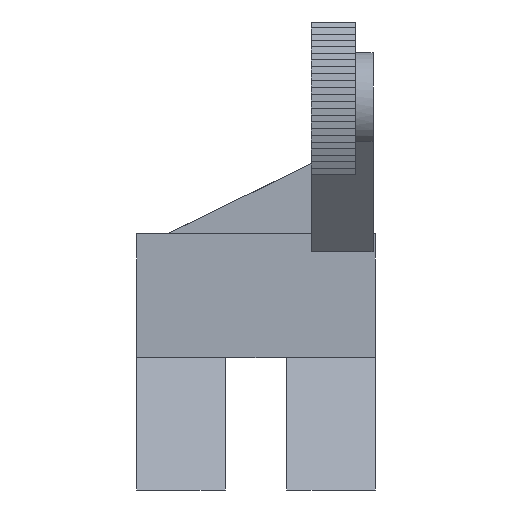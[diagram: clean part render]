
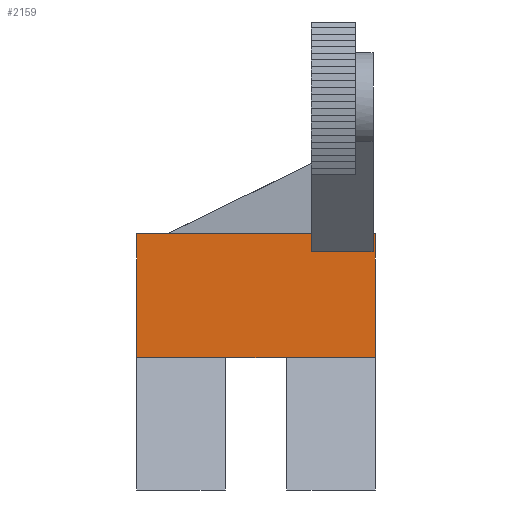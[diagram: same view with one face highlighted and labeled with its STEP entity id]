
A CAD part, front view. The second image highlights one B-rep face of the part: STEP entity #2159.
In plain terms, the highlighted planar face has unit normal (0, -1, 0).
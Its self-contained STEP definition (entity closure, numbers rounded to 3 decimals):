
#45 = PLANE('',#46);
#46 = AXIS2_PLACEMENT_3D('',#47,#48,#49);
#47 = CARTESIAN_POINT('',(20.5,0.,0.));
#48 = DIRECTION('',(1.,-0.,-0.));
#49 = DIRECTION('',(0.,0.,-1.));
#102 = PLANE('',#103);
#103 = AXIS2_PLACEMENT_3D('',#104,#105,#106);
#104 = CARTESIAN_POINT('',(6.5,0.,0.));
#105 = DIRECTION('',(1.,-0.,-0.));
#106 = DIRECTION('',(0.,0.,-1.));
#245 = PLANE('',#246);
#246 = AXIS2_PLACEMENT_3D('',#247,#248,#249);
#247 = CARTESIAN_POINT('',(6.5,-9.,-6.));
#248 = DIRECTION('',(-0.,-0.746,-0.666));
#249 = DIRECTION('',(-0.,-0.666,0.746));
#341 = VERTEX_POINT('',#342);
#342 = CARTESIAN_POINT('',(20.5,16.,-30.));
#356 = PLANE('',#357);
#357 = AXIS2_PLACEMENT_3D('',#358,#359,#360);
#358 = CARTESIAN_POINT('',(-33.,49.,-30.));
#359 = DIRECTION('',(0.,0.,1.));
#360 = DIRECTION('',(-1.,0.,0.));
#368 = EDGE_CURVE('',#369,#341,#371,.T.);
#369 = VERTEX_POINT('',#370);
#370 = CARTESIAN_POINT('',(20.5,16.,-34.));
#371 = SURFACE_CURVE('',#372,(#376,#383),.PCURVE_S1.);
#372 = LINE('',#373,#374);
#373 = CARTESIAN_POINT('',(20.5,16.,-29.));
#374 = VECTOR('',#375,1.);
#375 = DIRECTION('',(-0.,-0.,1.));
#376 = PCURVE('',#45,#377);
#377 = DEFINITIONAL_REPRESENTATION('',(#378),#382);
#378 = LINE('',#379,#380);
#379 = CARTESIAN_POINT('',(29.,16.));
#380 = VECTOR('',#381,1.);
#381 = DIRECTION('',(-1.,0.));
#382 = ( GEOMETRIC_REPRESENTATION_CONTEXT(2) 
PARAMETRIC_REPRESENTATION_CONTEXT() REPRESENTATION_CONTEXT('2D SPACE',''
  ) );
#383 = PCURVE('',#384,#389);
#384 = PLANE('',#385);
#385 = AXIS2_PLACEMENT_3D('',#386,#387,#388);
#386 = CARTESIAN_POINT('',(-33.,16.,-58.));
#387 = DIRECTION('',(0.,-1.,0.));
#388 = DIRECTION('',(0.,0.,-1.));
#389 = DEFINITIONAL_REPRESENTATION('',(#390),#394);
#390 = LINE('',#391,#392);
#391 = CARTESIAN_POINT('',(-29.,53.5));
#392 = VECTOR('',#393,1.);
#393 = DIRECTION('',(-1.,0.));
#394 = ( GEOMETRIC_REPRESENTATION_CONTEXT(2) 
PARAMETRIC_REPRESENTATION_CONTEXT() REPRESENTATION_CONTEXT('2D SPACE',''
  ) );
#661 = VERTEX_POINT('',#662);
#662 = CARTESIAN_POINT('',(6.5,16.,-30.));
#676 = PLANE('',#677);
#677 = AXIS2_PLACEMENT_3D('',#678,#679,#680);
#678 = CARTESIAN_POINT('',(-33.,49.,-30.));
#679 = DIRECTION('',(0.,0.,1.));
#680 = DIRECTION('',(-1.,0.,0.));
#688 = EDGE_CURVE('',#689,#661,#691,.T.);
#689 = VERTEX_POINT('',#690);
#690 = CARTESIAN_POINT('',(6.5,16.,-34.));
#691 = SURFACE_CURVE('',#692,(#696,#703),.PCURVE_S1.);
#692 = LINE('',#693,#694);
#693 = CARTESIAN_POINT('',(6.5,16.,-29.));
#694 = VECTOR('',#695,1.);
#695 = DIRECTION('',(-0.,-0.,1.));
#696 = PCURVE('',#102,#697);
#697 = DEFINITIONAL_REPRESENTATION('',(#698),#702);
#698 = LINE('',#699,#700);
#699 = CARTESIAN_POINT('',(29.,16.));
#700 = VECTOR('',#701,1.);
#701 = DIRECTION('',(-1.,0.));
#702 = ( GEOMETRIC_REPRESENTATION_CONTEXT(2) 
PARAMETRIC_REPRESENTATION_CONTEXT() REPRESENTATION_CONTEXT('2D SPACE',''
  ) );
#703 = PCURVE('',#384,#704);
#704 = DEFINITIONAL_REPRESENTATION('',(#705),#709);
#705 = LINE('',#706,#707);
#706 = CARTESIAN_POINT('',(-29.,39.5));
#707 = VECTOR('',#708,1.);
#708 = DIRECTION('',(-1.,0.));
#709 = ( GEOMETRIC_REPRESENTATION_CONTEXT(2) 
PARAMETRIC_REPRESENTATION_CONTEXT() REPRESENTATION_CONTEXT('2D SPACE',''
  ) );
#2005 = EDGE_CURVE('',#689,#369,#2006,.T.);
#2006 = SURFACE_CURVE('',#2007,(#2011,#2018),.PCURVE_S1.);
#2007 = LINE('',#2008,#2009);
#2008 = CARTESIAN_POINT('',(6.5,16.,-34.));
#2009 = VECTOR('',#2010,1.);
#2010 = DIRECTION('',(1.,-0.,-0.));
#2011 = PCURVE('',#245,#2012);
#2012 = DEFINITIONAL_REPRESENTATION('',(#2013),#2017);
#2013 = LINE('',#2014,#2015);
#2014 = CARTESIAN_POINT('',(-37.537,0.));
#2015 = VECTOR('',#2016,1.);
#2016 = DIRECTION('',(-0.,-1.));
#2017 = ( GEOMETRIC_REPRESENTATION_CONTEXT(2) 
PARAMETRIC_REPRESENTATION_CONTEXT() REPRESENTATION_CONTEXT('2D SPACE',''
  ) );
#2018 = PCURVE('',#384,#2019);
#2019 = DEFINITIONAL_REPRESENTATION('',(#2020),#2024);
#2020 = LINE('',#2021,#2022);
#2021 = CARTESIAN_POINT('',(-24.,39.5));
#2022 = VECTOR('',#2023,1.);
#2023 = DIRECTION('',(-0.,1.));
#2024 = ( GEOMETRIC_REPRESENTATION_CONTEXT(2) 
PARAMETRIC_REPRESENTATION_CONTEXT() REPRESENTATION_CONTEXT('2D SPACE',''
  ) );
#2159 = ADVANCED_FACE('',(#2160),#384,.T.);
#2160 = FACE_BOUND('',#2161,.F.);
#2161 = EDGE_LOOP('',(#2162,#2192,#2220,#2248,#2269,#2270,#2271,#2272));
#2162 = ORIENTED_EDGE('',*,*,#2163,.F.);
#2163 = EDGE_CURVE('',#2164,#2166,#2168,.T.);
#2164 = VERTEX_POINT('',#2165);
#2165 = CARTESIAN_POINT('',(21.,16.,-58.));
#2166 = VERTEX_POINT('',#2167);
#2167 = CARTESIAN_POINT('',(21.,16.,-30.));
#2168 = SURFACE_CURVE('',#2169,(#2173,#2180),.PCURVE_S1.);
#2169 = LINE('',#2170,#2171);
#2170 = CARTESIAN_POINT('',(21.,16.,-58.));
#2171 = VECTOR('',#2172,1.);
#2172 = DIRECTION('',(0.,0.,1.));
#2173 = PCURVE('',#384,#2174);
#2174 = DEFINITIONAL_REPRESENTATION('',(#2175),#2179);
#2175 = LINE('',#2176,#2177);
#2176 = CARTESIAN_POINT('',(-0.,54.));
#2177 = VECTOR('',#2178,1.);
#2178 = DIRECTION('',(-1.,0.));
#2179 = ( GEOMETRIC_REPRESENTATION_CONTEXT(2) 
PARAMETRIC_REPRESENTATION_CONTEXT() REPRESENTATION_CONTEXT('2D SPACE',''
  ) );
#2180 = PCURVE('',#2181,#2186);
#2181 = PLANE('',#2182);
#2182 = AXIS2_PLACEMENT_3D('',#2183,#2184,#2185);
#2183 = CARTESIAN_POINT('',(21.,49.,-58.));
#2184 = DIRECTION('',(1.,-0.,-0.));
#2185 = DIRECTION('',(0.,0.,-1.));
#2186 = DEFINITIONAL_REPRESENTATION('',(#2187),#2191);
#2187 = LINE('',#2188,#2189);
#2188 = CARTESIAN_POINT('',(-0.,-33.));
#2189 = VECTOR('',#2190,1.);
#2190 = DIRECTION('',(-1.,0.));
#2191 = ( GEOMETRIC_REPRESENTATION_CONTEXT(2) 
PARAMETRIC_REPRESENTATION_CONTEXT() REPRESENTATION_CONTEXT('2D SPACE',''
  ) );
#2192 = ORIENTED_EDGE('',*,*,#2193,.F.);
#2193 = EDGE_CURVE('',#2194,#2164,#2196,.T.);
#2194 = VERTEX_POINT('',#2195);
#2195 = CARTESIAN_POINT('',(-33.,16.,-58.));
#2196 = SURFACE_CURVE('',#2197,(#2201,#2208),.PCURVE_S1.);
#2197 = LINE('',#2198,#2199);
#2198 = CARTESIAN_POINT('',(-33.,16.,-58.));
#2199 = VECTOR('',#2200,1.);
#2200 = DIRECTION('',(1.,0.,-0.));
#2201 = PCURVE('',#384,#2202);
#2202 = DEFINITIONAL_REPRESENTATION('',(#2203),#2207);
#2203 = LINE('',#2204,#2205);
#2204 = CARTESIAN_POINT('',(-0.,0.));
#2205 = VECTOR('',#2206,1.);
#2206 = DIRECTION('',(-0.,1.));
#2207 = ( GEOMETRIC_REPRESENTATION_CONTEXT(2) 
PARAMETRIC_REPRESENTATION_CONTEXT() REPRESENTATION_CONTEXT('2D SPACE',''
  ) );
#2208 = PCURVE('',#2209,#2214);
#2209 = PLANE('',#2210);
#2210 = AXIS2_PLACEMENT_3D('',#2211,#2212,#2213);
#2211 = CARTESIAN_POINT('',(-33.,49.,-58.));
#2212 = DIRECTION('',(0.,0.,1.));
#2213 = DIRECTION('',(-1.,0.,0.));
#2214 = DEFINITIONAL_REPRESENTATION('',(#2215),#2219);
#2215 = LINE('',#2216,#2217);
#2216 = CARTESIAN_POINT('',(-0.,33.));
#2217 = VECTOR('',#2218,1.);
#2218 = DIRECTION('',(-1.,0.));
#2219 = ( GEOMETRIC_REPRESENTATION_CONTEXT(2) 
PARAMETRIC_REPRESENTATION_CONTEXT() REPRESENTATION_CONTEXT('2D SPACE',''
  ) );
#2220 = ORIENTED_EDGE('',*,*,#2221,.T.);
#2221 = EDGE_CURVE('',#2194,#2222,#2224,.T.);
#2222 = VERTEX_POINT('',#2223);
#2223 = CARTESIAN_POINT('',(-33.,16.,-30.));
#2224 = SURFACE_CURVE('',#2225,(#2229,#2236),.PCURVE_S1.);
#2225 = LINE('',#2226,#2227);
#2226 = CARTESIAN_POINT('',(-33.,16.,-58.));
#2227 = VECTOR('',#2228,1.);
#2228 = DIRECTION('',(0.,0.,1.));
#2229 = PCURVE('',#384,#2230);
#2230 = DEFINITIONAL_REPRESENTATION('',(#2231),#2235);
#2231 = LINE('',#2232,#2233);
#2232 = CARTESIAN_POINT('',(-0.,0.));
#2233 = VECTOR('',#2234,1.);
#2234 = DIRECTION('',(-1.,0.));
#2235 = ( GEOMETRIC_REPRESENTATION_CONTEXT(2) 
PARAMETRIC_REPRESENTATION_CONTEXT() REPRESENTATION_CONTEXT('2D SPACE',''
  ) );
#2236 = PCURVE('',#2237,#2242);
#2237 = PLANE('',#2238);
#2238 = AXIS2_PLACEMENT_3D('',#2239,#2240,#2241);
#2239 = CARTESIAN_POINT('',(-33.,49.,-58.));
#2240 = DIRECTION('',(1.,-0.,-0.));
#2241 = DIRECTION('',(0.,0.,-1.));
#2242 = DEFINITIONAL_REPRESENTATION('',(#2243),#2247);
#2243 = LINE('',#2244,#2245);
#2244 = CARTESIAN_POINT('',(-0.,-33.));
#2245 = VECTOR('',#2246,1.);
#2246 = DIRECTION('',(-1.,0.));
#2247 = ( GEOMETRIC_REPRESENTATION_CONTEXT(2) 
PARAMETRIC_REPRESENTATION_CONTEXT() REPRESENTATION_CONTEXT('2D SPACE',''
  ) );
#2248 = ORIENTED_EDGE('',*,*,#2249,.T.);
#2249 = EDGE_CURVE('',#2222,#661,#2250,.T.);
#2250 = SURFACE_CURVE('',#2251,(#2255,#2262),.PCURVE_S1.);
#2251 = LINE('',#2252,#2253);
#2252 = CARTESIAN_POINT('',(-33.,16.,-30.));
#2253 = VECTOR('',#2254,1.);
#2254 = DIRECTION('',(1.,0.,-0.));
#2255 = PCURVE('',#384,#2256);
#2256 = DEFINITIONAL_REPRESENTATION('',(#2257),#2261);
#2257 = LINE('',#2258,#2259);
#2258 = CARTESIAN_POINT('',(-28.,0.));
#2259 = VECTOR('',#2260,1.);
#2260 = DIRECTION('',(-0.,1.));
#2261 = ( GEOMETRIC_REPRESENTATION_CONTEXT(2) 
PARAMETRIC_REPRESENTATION_CONTEXT() REPRESENTATION_CONTEXT('2D SPACE',''
  ) );
#2262 = PCURVE('',#676,#2263);
#2263 = DEFINITIONAL_REPRESENTATION('',(#2264),#2268);
#2264 = LINE('',#2265,#2266);
#2265 = CARTESIAN_POINT('',(-0.,33.));
#2266 = VECTOR('',#2267,1.);
#2267 = DIRECTION('',(-1.,0.));
#2268 = ( GEOMETRIC_REPRESENTATION_CONTEXT(2) 
PARAMETRIC_REPRESENTATION_CONTEXT() REPRESENTATION_CONTEXT('2D SPACE',''
  ) );
#2269 = ORIENTED_EDGE('',*,*,#688,.F.);
#2270 = ORIENTED_EDGE('',*,*,#2005,.T.);
#2271 = ORIENTED_EDGE('',*,*,#368,.T.);
#2272 = ORIENTED_EDGE('',*,*,#2273,.T.);
#2273 = EDGE_CURVE('',#341,#2166,#2274,.T.);
#2274 = SURFACE_CURVE('',#2275,(#2279,#2286),.PCURVE_S1.);
#2275 = LINE('',#2276,#2277);
#2276 = CARTESIAN_POINT('',(-33.,16.,-30.));
#2277 = VECTOR('',#2278,1.);
#2278 = DIRECTION('',(1.,0.,-0.));
#2279 = PCURVE('',#384,#2280);
#2280 = DEFINITIONAL_REPRESENTATION('',(#2281),#2285);
#2281 = LINE('',#2282,#2283);
#2282 = CARTESIAN_POINT('',(-28.,0.));
#2283 = VECTOR('',#2284,1.);
#2284 = DIRECTION('',(-0.,1.));
#2285 = ( GEOMETRIC_REPRESENTATION_CONTEXT(2) 
PARAMETRIC_REPRESENTATION_CONTEXT() REPRESENTATION_CONTEXT('2D SPACE',''
  ) );
#2286 = PCURVE('',#356,#2287);
#2287 = DEFINITIONAL_REPRESENTATION('',(#2288),#2292);
#2288 = LINE('',#2289,#2290);
#2289 = CARTESIAN_POINT('',(-0.,33.));
#2290 = VECTOR('',#2291,1.);
#2291 = DIRECTION('',(-1.,0.));
#2292 = ( GEOMETRIC_REPRESENTATION_CONTEXT(2) 
PARAMETRIC_REPRESENTATION_CONTEXT() REPRESENTATION_CONTEXT('2D SPACE',''
  ) );
